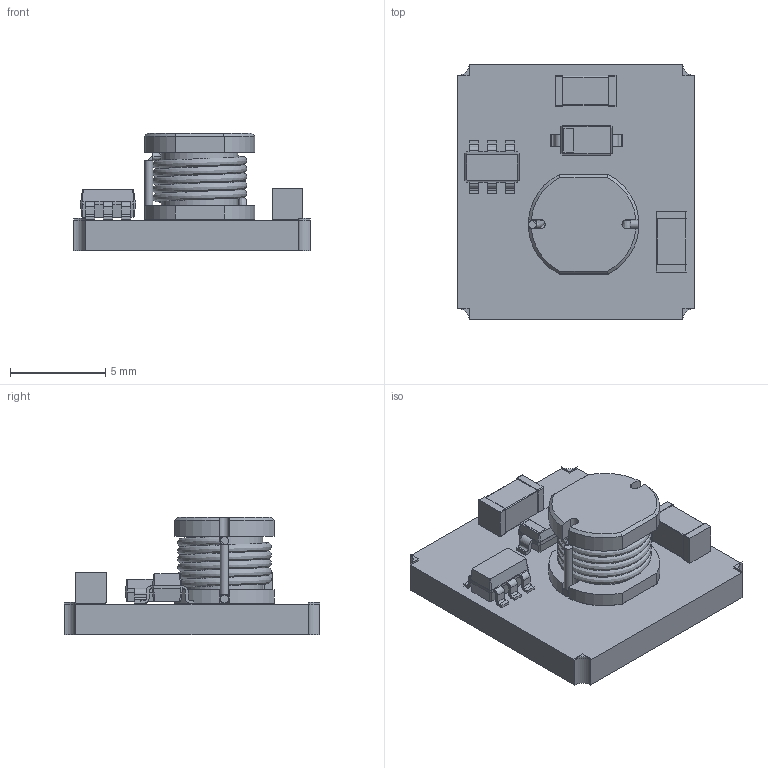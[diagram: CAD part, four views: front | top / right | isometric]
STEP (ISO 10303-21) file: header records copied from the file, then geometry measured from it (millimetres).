
FILE_DESCRIPTION(('FreeCAD Model'),'2;1');
FILE_NAME('Open CASCADE Shape Model','2022-04-11T18:41:41',( 'kicad StepUp'),('ksu MCAD'),'Open CASCADE STEP processor 7.5', 'FreeCAD','Unknown');
FILE_SCHEMA(('AUTOMOTIVE_DESIGN { 1 0 10303 214 1 1 1 1 }'));
Length unit declared in the file: millimetre
Products named in the file (1): K78xxJT-500R3_mod
Bounding box: 12.4 x 13.4 x 6.14 mm (x, y, z)
Volume: 379.9 mm3; surface area: 851.1 mm2
Topology: 24 solids, 24 shells, 372 faces, 866 edges, 543 vertices
Faces by surface type: plane 211, cylinder 87, bspline 65, cone 4, revolution 3, torus 2
Full cylindrical faces by diameter (mm): 0.43 x4, 4.02 x1
Entity records: 13877 total; most frequent: CARTESIAN_POINT 2927, ORIENTED_EDGE 1724, DIRECTION 1586, EDGE_CURVE 862, LINE 573, VECTOR 573, VERTEX_POINT 543, AXIS2_PLACEMENT_3D 505
